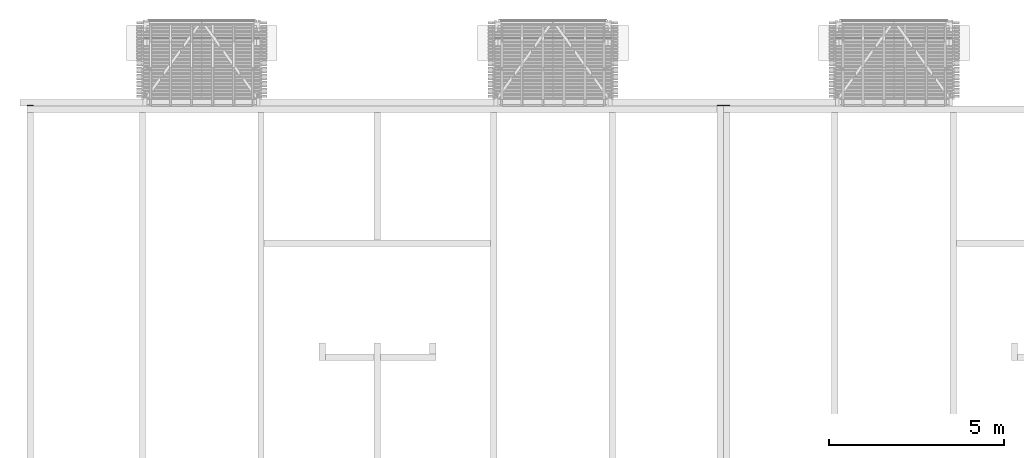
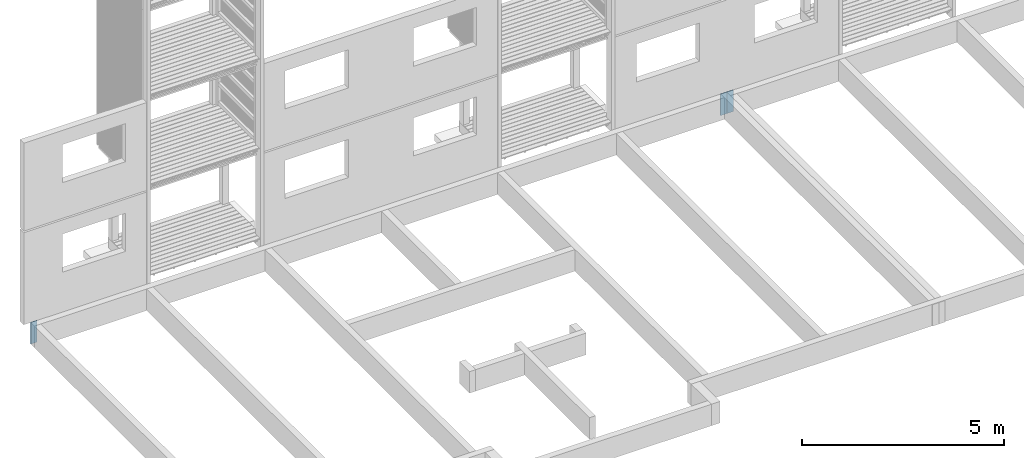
# One storey, part 4 of 182: 3 walls.
"""IFC2X3 building model written with IfcOpenShell, lengths in metres."""

from ifc_helpers import new_model, si_unit, frame, frame_2d, origin, place, context, project, spatial, rectangle, extrude, element, save


model = new_model("IFC2X3")

# Units and contexts
model_context = context("Model", 3, precision=1e-06, world=origin())
ifc_project = project(units=[si_unit("LENGTHUNIT", "METRE"), si_unit("PLANEANGLEUNIT", "RADIAN")], contexts=[model_context])

# Site, building, storey
site = spatial("IfcSite", under=ifc_project, CompositionType="ELEMENT")
building = spatial("IfcBuilding", under=site, CompositionType="ELEMENT")
storey = spatial("IfcBuildingStorey", under=building, Name="vs", CompositionType="ELEMENT", Elevation=-0.85)

# Walls
placement = place(None, origin())
wall_1_placement = place(placement, frame((19.849999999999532, 10.470077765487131, -0.85), z_axis=(0.0, 0.0, 1.0), x_axis=(-1.0, 0.0, 0.0)))
element("IfcWall", 1, at=wall_1_placement, inside=storey, context=model_context, shape_type="SweptSolid", body=[
    extrude(rectangle(XDim=0.18, YDim=0.020000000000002, at=frame_2d((0.09, 0.010000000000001), x_axis=(1.0, 0.0)), kind="CURVE"), frame((0.0, -0.020000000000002, 0.0), z_axis=(0.0, 0.0, 1.0), x_axis=(1.0, 0.0, 0.0)), (0.0, 0.0, 1.0), 0.65),
])
wall_2_placement = place(placement, frame((-4e-15, 10.49007776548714, -0.85), z_axis=(0.0, 0.0, 1.0), x_axis=(1.0, 0.0, 0.0)))
element("IfcWall", 2, at=wall_2_placement, inside=storey, context=model_context, shape_type="SweptSolid", body=[
    extrude(rectangle(XDim=0.18, YDim=0.019999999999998, at=frame_2d((0.09, 0.009999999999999), x_axis=(1.0, 0.0)), kind="CURVE"), frame((0.0, -0.019999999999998, 0.0), z_axis=(0.0, 0.0, 1.0), x_axis=(1.0, 0.0, 0.0)), (0.0, 0.0, 1.0), 0.65),
])
wall_3_placement = place(placement, frame((19.849999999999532, 10.49007776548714, -0.85), z_axis=(0.0, 0.0, 1.0), x_axis=(1.0, 0.0, 0.0)))
element("IfcWall", 3, at=wall_3_placement, inside=storey, context=model_context, shape_type="SweptSolid", body=[
    extrude(rectangle(XDim=0.18, YDim=0.02, at=frame_2d((0.09, 0.01), x_axis=(1.0, 0.0)), kind="CURVE"), frame((0.0, -0.02, 0.0), z_axis=(0.0, 0.0, 1.0), x_axis=(1.0, 0.0, 0.0)), (0.0, 0.0, 1.0), 0.65),
])

save(model, "model.ifc")
